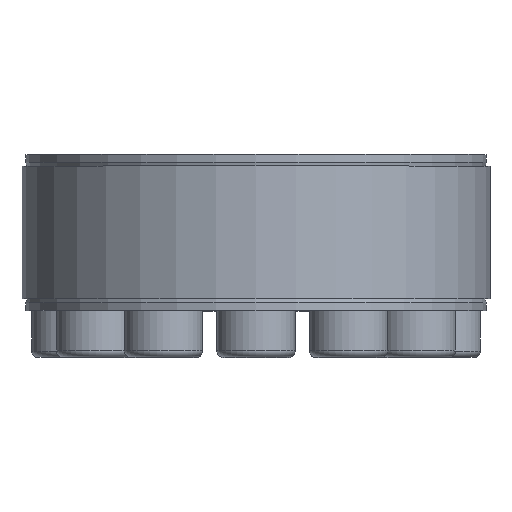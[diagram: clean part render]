
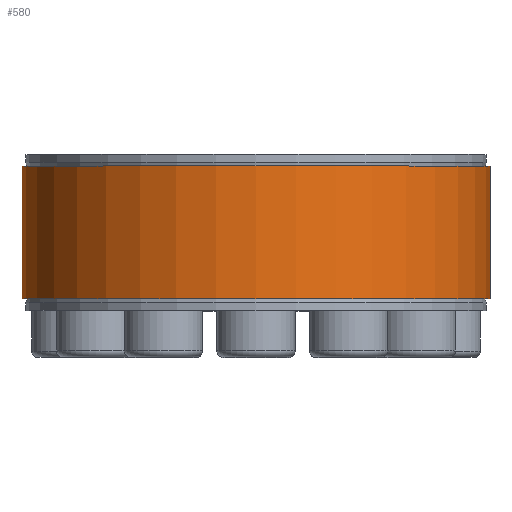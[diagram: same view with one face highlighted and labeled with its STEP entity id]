
A CAD part, top view. The second image highlights one B-rep face of the part: STEP entity #580.
In plain terms, the highlighted cylindrical face has radius 30 mm (diameter 60 mm), a partial arc.
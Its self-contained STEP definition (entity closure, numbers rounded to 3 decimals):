
#580 = ADVANCED_FACE( '', ( #1110 ), #1111, .T. );
#1110 = FACE_OUTER_BOUND( '', #1971, .T. );
#1111 = CYLINDRICAL_SURFACE( '', #1972, 30. );
#1971 = EDGE_LOOP( '', ( #2932, #2933, #2934, #2935 ) );
#1972 = AXIS2_PLACEMENT_3D( '', #2936, #2937, #2938 );
#2932 = ORIENTED_EDGE( '', *, *, #4892, .F. );
#2933 = ORIENTED_EDGE( '', *, *, #4893, .T. );
#2934 = ORIENTED_EDGE( '', *, *, #4886, .T. );
#2935 = ORIENTED_EDGE( '', *, *, #4894, .F. );
#2936 = CARTESIAN_POINT( '', ( 0., -60., 0. ) );
#2937 = DIRECTION( '', ( 0., -1., 0. ) );
#2938 = DIRECTION( '', ( 0., 0., 1. ) );
#4886 = EDGE_CURVE( '', #5465, #5466, #5467, .T. );
#4892 = EDGE_CURVE( '', #5476, #5477, #5478, .T. );
#4893 = EDGE_CURVE( '', #5476, #5465, #5479, .T. );
#4894 = EDGE_CURVE( '', #5477, #5466, #5480, .T. );
#5465 = VERTEX_POINT( '', #6273 );
#5466 = VERTEX_POINT( '', #6274 );
#5467 = CIRCLE( '', #6275, 30. );
#5476 = VERTEX_POINT( '', #6288 );
#5477 = VERTEX_POINT( '', #6289 );
#5478 = CIRCLE( '', #6290, 30. );
#5479 = LINE( '', #6291, #6292 );
#5480 = LINE( '', #6293, #6294 );
#6273 = CARTESIAN_POINT( '', ( 0.5, 8.5, -29.996 ) );
#6274 = CARTESIAN_POINT( '', ( -0.5, 8.5, -29.996 ) );
#6275 = AXIS2_PLACEMENT_3D( '', #7740, #7741, #7742 );
#6288 = CARTESIAN_POINT( '', ( 0.5, -8.5, -29.996 ) );
#6289 = CARTESIAN_POINT( '', ( -0.5, -8.5, -29.996 ) );
#6290 = AXIS2_PLACEMENT_3D( '', #7750, #7751, #7752 );
#6291 = CARTESIAN_POINT( '', ( 0.5, -60., -29.996 ) );
#6292 = VECTOR( '', #7753, 1000. );
#6293 = CARTESIAN_POINT( '', ( -0.5, -60., -29.996 ) );
#6294 = VECTOR( '', #7754, 1000. );
#7740 = CARTESIAN_POINT( '', ( 0., 8.5, 0. ) );
#7741 = DIRECTION( '', ( 0., -1., 0. ) );
#7742 = DIRECTION( '', ( 0., 0., -1. ) );
#7750 = CARTESIAN_POINT( '', ( 0., -8.5, 0. ) );
#7751 = DIRECTION( '', ( 0., -1., 0. ) );
#7752 = DIRECTION( '', ( 0., 0., -1. ) );
#7753 = DIRECTION( '', ( 0., 1., 0. ) );
#7754 = DIRECTION( '', ( 0., 1., 0. ) );
